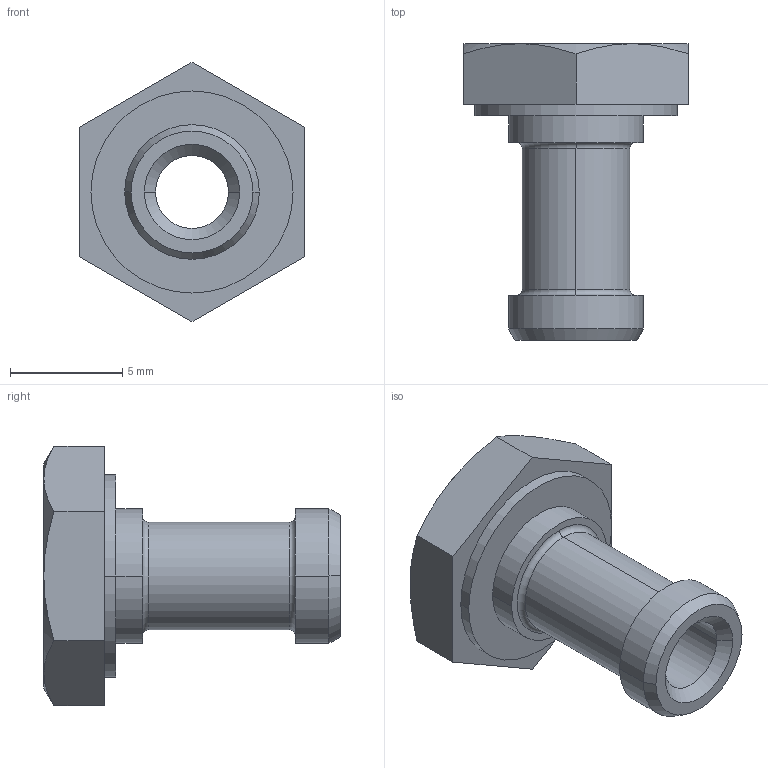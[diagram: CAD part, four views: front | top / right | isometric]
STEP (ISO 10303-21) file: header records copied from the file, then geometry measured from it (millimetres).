
FILE_DESCRIPTION(('CATIA V5 STEP Exchange','CAx-IF Rec.Pracs.--- Model Styling and Organization---1.4--- 2014-01-23','CAx-IF Rec.Pracs.---3D Tessellated Data Validation Properties---0.5---2014-09-14'),'2;1');
FILE_NAME('D:\CTA\NECTARCAM PROD\CTA-01 - Camera Module\CTA-0103 - Backplanes\CTA-010303 - Mechanical Components\CTA-010303-001_2 - Backplane_Custom_Screw.stp','2026-03-13T09:42:38+00:00',('none'),('none'),'CATIA Version 5-6 Release 2018 SP5 HF4','CATIA V5 STEP AP242','none');
FILE_SCHEMA(('AP242_MANAGED_MODEL_BASED_3D_ENGINEERING_MIM_LF {1 0 10303 442 1 1 4}'));
Length unit declared in the file: millimetre
Products named in the file (1): CTA-010303-001_v2
Bounding box: 10 x 13.2 x 11.55 mm (x, y, z)
Volume: 366.3 mm3; surface area: 566.2 mm2
Topology: 1 solids, 1 shells, 38 faces, 80 edges, 48 vertices
Faces by surface type: plane 12, cone 12, cylinder 10, torus 4
Entity records: 1018 total; most frequent: CARTESIAN_POINT 252, ORIENTED_EDGE 160, DIRECTION 122, EDGE_CURVE 80, AXIS2_PLACEMENT_3D 68, VERTEX_POINT 48, EDGE_LOOP 44, CIRCLE 40
